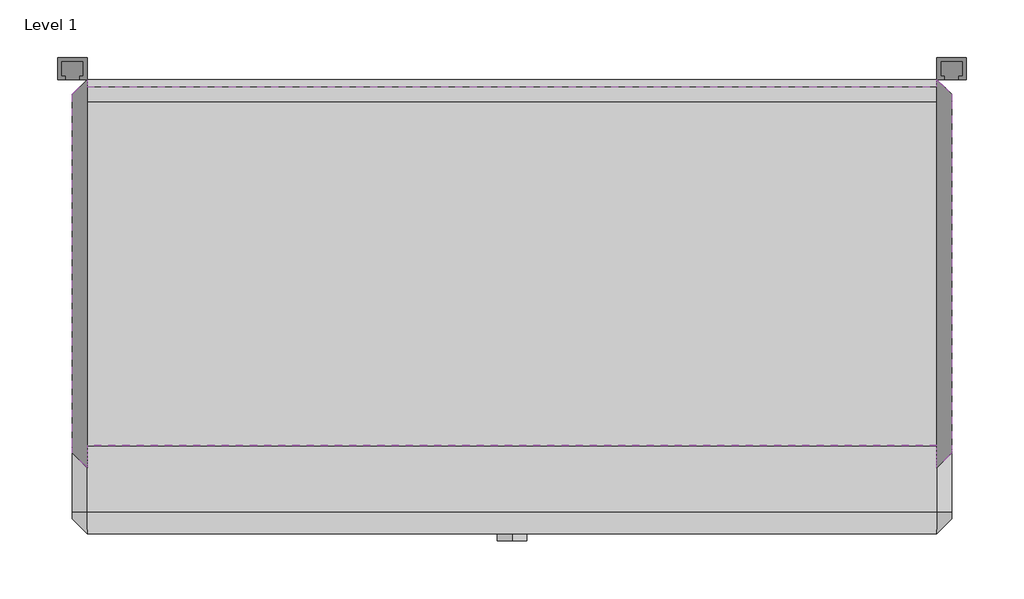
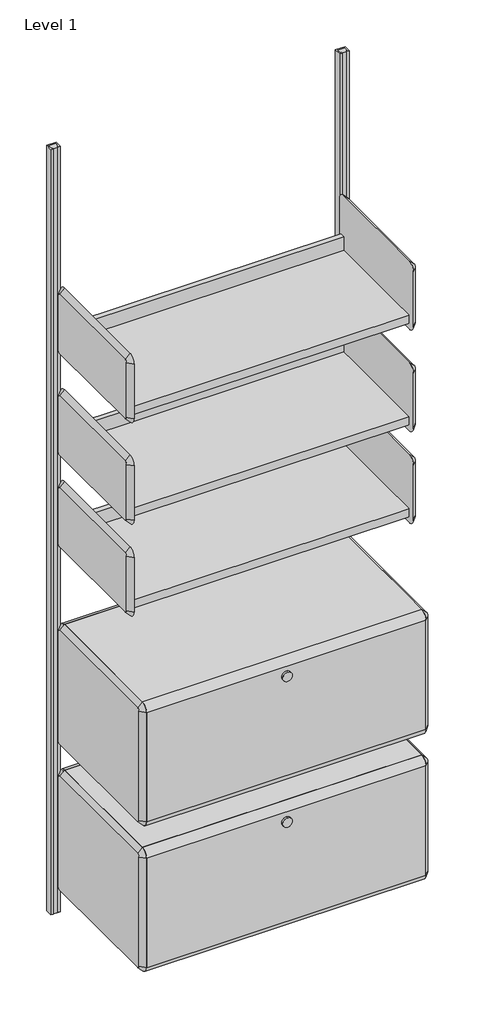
# One storey: 7 furniture elements.
"""IFC4 building model written with IfcOpenShell, lengths in millimetres."""

from ifc_helpers import new_model, si_unit, origin, place, context, project, spatial, transform, mapped, element, save
from components import furniture_1f80d258, furniture_04e1aa75, furniture_05aa910b, furniture_510dab15, furniture_ea425779

model = new_model("IFC4")

# Units and contexts
model_context = context("Model", 3, world=origin())
ifc_project = project(units=[si_unit("LENGTHUNIT", "METRE", prefix="MILLI")], contexts=[model_context])

# Site, building, storey
site = spatial("IfcSite", under=ifc_project)
building = spatial("IfcBuilding", under=site)
storey = spatial("IfcBuildingStorey", under=building, Name="Level 1", Elevation=0.0)

# Furniture
placement = place(None, origin())
furniture_shape = furniture_1f80d258(model_context)
element("IfcFurniture", 1, ObjectType="HermanMiller_ActionOffice_A3121_B-StyleSuspendedLateralFile : 16\"D x 30\"W", at=placement, inside=storey, context=model_context, shape_type="MappedRepresentation", body=[
    mapped(furniture_shape, transform((381.0, -228.6, 0.0), x_axis=(1.0, 0.0, 0.0), y_axis=(0.0, 1.0, 0.0), z_axis=(0.0, 0.0, 1.0))),
])
element("IfcFurniture", 2, ObjectType="HermanMiller_ActionOffice_A3121_B-StyleSuspendedLateralFile : 16\"D x 30\"W", at=placement, inside=storey, context=model_context, shape_type="MappedRepresentation", body=[
    mapped(furniture_shape, transform((381.0, -228.6, 406.4), x_axis=(1.0, 0.0, 0.0), y_axis=(0.0, 1.0, 0.0), z_axis=(0.0, 0.0, 1.0))),
])
furniture_2_shape = furniture_04e1aa75(model_context)
element("IfcFurniture", 3, ObjectType="HermanMiller_ActionOffice_A3220_B-StyleStorageDisplay : Shelf 13\"D x 30\"W", at=placement, inside=storey, context=model_context, shape_type="MappedRepresentation", body=[
    mapped(furniture_2_shape, transform((504.9420045, -200.025, 0.0), x_axis=(1.0, 0.0, 0.0), y_axis=(0.0, 1.0, 0.0), z_axis=(0.0, 0.0, 1.0))),
])
furniture_3_shape = furniture_05aa910b(model_context)
element("IfcFurniture", 4, ObjectType="HermanMiller_ActionOffice_A3220_B-StyleStorageDisplay : Shelf 13\"D x 30\"W", at=placement, inside=storey, context=model_context, shape_type="MappedRepresentation", body=[
    mapped(furniture_3_shape, transform((504.9420045, -200.025, 0.0), x_axis=(1.0, 0.0, 0.0), y_axis=(0.0, 1.0, 0.0), z_axis=(0.0, 0.0, 1.0))),
])
furniture_4_shape = furniture_510dab15(model_context)
element("IfcFurniture", 5, ObjectType="HermanMiller_ActionOffice_A3220_B-StyleStorageDisplay : Shelf 13\"D x 30\"W", at=placement, inside=storey, context=model_context, shape_type="MappedRepresentation", body=[
    mapped(furniture_4_shape, transform((504.9420045, -200.025, 0.0), x_axis=(1.0, 0.0, 0.0), y_axis=(0.0, 1.0, 0.0), z_axis=(0.0, 0.0, 1.0))),
])
furniture_5_shape = furniture_ea425779(model_context)
element("IfcFurniture", 6, ObjectType="HermanMiller_ActionOffice_AO213_WallStrip : 84\"H", at=placement, inside=storey, context=model_context, shape_type="MappedRepresentation", body=[
    mapped(furniture_5_shape, transform((762.0, 0.0, 0.0), x_axis=(1.0, 0.0, 0.0), y_axis=(0.0, 1.0, 0.0), z_axis=(0.0, 0.0, 1.0))),
])
element("IfcFurniture", 7, ObjectType="HermanMiller_ActionOffice_AO213_WallStrip : 84\"H", at=placement, inside=storey, context=model_context, shape_type="MappedRepresentation", body=[
    mapped(furniture_5_shape, transform((0.0, 0.0, 0.0), x_axis=(1.0, 0.0, 0.0), y_axis=(0.0, 1.0, 0.0), z_axis=(0.0, 0.0, 1.0))),
])

save(model, "model.ifc")
